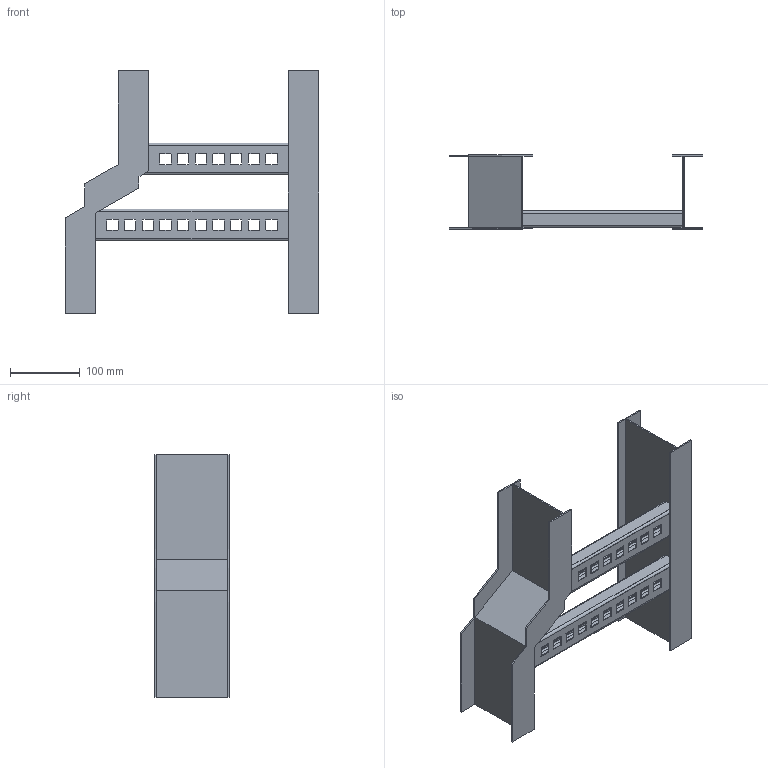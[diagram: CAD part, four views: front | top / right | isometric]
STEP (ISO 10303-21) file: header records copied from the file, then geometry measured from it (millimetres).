
FILE_DESCRIPTION((''),'2;1');
FILE_NAME('AHF71209LHLR_ASM','2010-01-27T',('erouzier'),(''),'PRO/ENGINEER BY PARAMETRIC TECHNOLOGY CORPORATION, 2008510','PRO/ENGINEER BY PARAMETRIC TECHNOLOGY CORPORATION, 2008510','');
FILE_SCHEMA(('CONFIG_CONTROL_DESIGN'));
Length unit declared in the file: inch
Products named in the file (5): CDS013867-7-30; CDS013976-7-3; CDS002159L12-P; CDS002159L9-P_AF4; AHF71209LHLR_ASM
Assembly tree (4 placements, depth 2):
  AHF71209LHLR_ASM
    CDS013867-7-30
    CDS013976-7-3
    CDS002159L12-P
    CDS002159L9-P_AF4
Bounding box: 365 x 106.43 x 348.79 mm (x, y, z)
Volume: 343286.7 mm3; surface area: 403164.7 mm2
Topology: 4 solids, 4 shells, 249 faces, 711 edges, 470 vertices
Faces by surface type: plane 159, cylinder 90
Entity records: 8316 total; most frequent: CARTESIAN_POINT 1439, ORIENTED_EDGE 1422, DIRECTION 1407, EDGE_CURVE 711, VECTOR 531, LINE 531, VERTEX_POINT 470, AXIS2_PLACEMENT_3D 438
